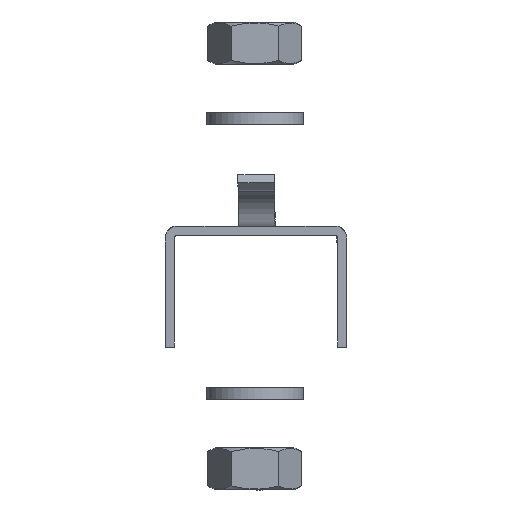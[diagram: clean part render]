
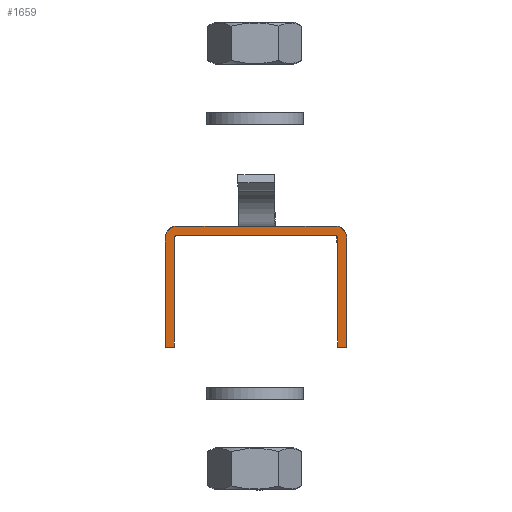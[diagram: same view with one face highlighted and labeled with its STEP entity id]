
A CAD part, front view. The second image highlights one B-rep face of the part: STEP entity #1659.
In plain terms, the highlighted planar face has unit normal (0, -1, 0).
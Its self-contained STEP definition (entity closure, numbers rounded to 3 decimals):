
#320=(
BOUNDED_CURVE()
B_SPLINE_CURVE(2,(#9279,#9280,#9281,#9282,#9283,#9284,#9285,#9286,#9287),
.UNSPECIFIED.,.F.,.F.)
B_SPLINE_CURVE_WITH_KNOTS((3,2,2,2,3),(-160.571,-159.785,
-133.785,-133.,-115.),.UNSPECIFIED.)
CURVE()
GEOMETRIC_REPRESENTATION_ITEM()
RATIONAL_B_SPLINE_CURVE((1.,0.707,1.,1.,1.,0.707,
1.,1.,1.))
REPRESENTATION_ITEM($)
);
#321=(
BOUNDED_CURVE()
B_SPLINE_CURVE(2,(#9292,#9293,#9294,#9295,#9296,#9297,#9298,#9299,#9300,
#9301,#9302),.UNSPECIFIED.,.F.,.F.)
B_SPLINE_CURVE_WITH_KNOTS((3,2,2,2,2,3),(-113.5,-95.5,-92.358,
-66.358,-63.217,-45.217),.UNSPECIFIED.)
CURVE()
GEOMETRIC_REPRESENTATION_ITEM()
RATIONAL_B_SPLINE_CURVE((1.,1.,1.,0.707,1.,1.,1.,0.707,
1.,1.,1.))
REPRESENTATION_ITEM($)
);
#1659=ADVANCED_FACE($,(#1802),#3756,.T.);
#1802=FACE_OUTER_BOUND($,#1971,.T.);
#1971=EDGE_LOOP($,(#2540,#2541,#2542,#2543,#2544));
#2540=ORIENTED_EDGE($,*,*,#3114,.T.);
#2541=ORIENTED_EDGE($,*,*,#3118,.T.);
#2542=ORIENTED_EDGE($,*,*,#3117,.T.);
#2543=ORIENTED_EDGE($,*,*,#3116,.T.);
#2544=ORIENTED_EDGE($,*,*,#3115,.T.);
#3114=EDGE_CURVE($,#3626,#3630,#320,.T.);
#3115=EDGE_CURVE($,#3627,#3626,#4067,.T.);
#3116=EDGE_CURVE($,#3628,#3627,#4068,.T.);
#3117=EDGE_CURVE($,#3629,#3628,#321,.T.);
#3118=EDGE_CURVE($,#3630,#3629,#4069,.T.);
#3626=VERTEX_POINT($,#9306);
#3627=VERTEX_POINT($,#9307);
#3628=VERTEX_POINT($,#9308);
#3629=VERTEX_POINT($,#9309);
#3630=VERTEX_POINT($,#9310);
#3756=PLANE($,#4145);
#4067=B_SPLINE_CURVE_WITH_KNOTS($,1,(#9288,#9289),.UNSPECIFIED.,.F.,.F.,
(2,2),(-43.717,-25.717),.UNSPECIFIED.);
#4068=B_SPLINE_CURVE_WITH_KNOTS($,1,(#9290,#9291),.UNSPECIFIED.,.F.,.F.,
(2,2),(-45.217,-43.717),.UNSPECIFIED.);
#4069=B_SPLINE_CURVE_WITH_KNOTS($,1,(#9303,#9304),.UNSPECIFIED.,.F.,.F.,
(2,2),(-115.,-113.5),.UNSPECIFIED.);
#4145=AXIS2_PLACEMENT_3D($,#9305,#4200,$);
#4200=DIRECTION($,(0.,-1.,0.));
#9279=CARTESIAN_POINT($,(-16.5,-513.969,-2.));
#9280=CARTESIAN_POINT($,(-16.5,-513.969,-1.5));
#9281=CARTESIAN_POINT($,(-16.,-513.969,-1.5));
#9282=CARTESIAN_POINT($,(-3.,-513.969,-1.5));
#9283=CARTESIAN_POINT($,(10.,-513.969,-1.5));
#9284=CARTESIAN_POINT($,(10.5,-513.969,-1.5));
#9285=CARTESIAN_POINT($,(10.5,-513.969,-2.));
#9286=CARTESIAN_POINT($,(10.5,-513.969,-11.));
#9287=CARTESIAN_POINT($,(10.5,-513.969,-20.));
#9288=CARTESIAN_POINT($,(-16.5,-513.969,-20.));
#9289=CARTESIAN_POINT($,(-16.5,-513.969,-2.));
#9290=CARTESIAN_POINT($,(-18.,-513.969,-20.));
#9291=CARTESIAN_POINT($,(-16.5,-513.969,-20.));
#9292=CARTESIAN_POINT($,(12.,-513.969,-20.));
#9293=CARTESIAN_POINT($,(12.,-513.969,-11.));
#9294=CARTESIAN_POINT($,(12.,-513.969,-2.));
#9295=CARTESIAN_POINT($,(12.,-513.969,0.));
#9296=CARTESIAN_POINT($,(10.,-513.969,0.));
#9297=CARTESIAN_POINT($,(-3.,-513.969,0.));
#9298=CARTESIAN_POINT($,(-16.,-513.969,0.));
#9299=CARTESIAN_POINT($,(-18.,-513.969,0.));
#9300=CARTESIAN_POINT($,(-18.,-513.969,-2.));
#9301=CARTESIAN_POINT($,(-18.,-513.969,-11.));
#9302=CARTESIAN_POINT($,(-18.,-513.969,-20.));
#9303=CARTESIAN_POINT($,(10.5,-513.969,-20.));
#9304=CARTESIAN_POINT($,(12.,-513.969,-20.));
#9305=CARTESIAN_POINT($,(-18.,-513.969,-20.));
#9306=CARTESIAN_POINT($,(-16.5,-513.969,-2.));
#9307=CARTESIAN_POINT($,(-16.5,-513.969,-20.));
#9308=CARTESIAN_POINT($,(-18.,-513.969,-20.));
#9309=CARTESIAN_POINT($,(12.,-513.969,-20.));
#9310=CARTESIAN_POINT($,(10.5,-513.969,-20.));
